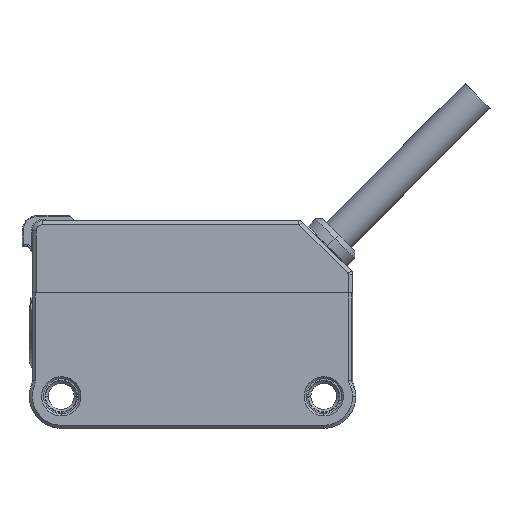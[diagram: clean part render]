
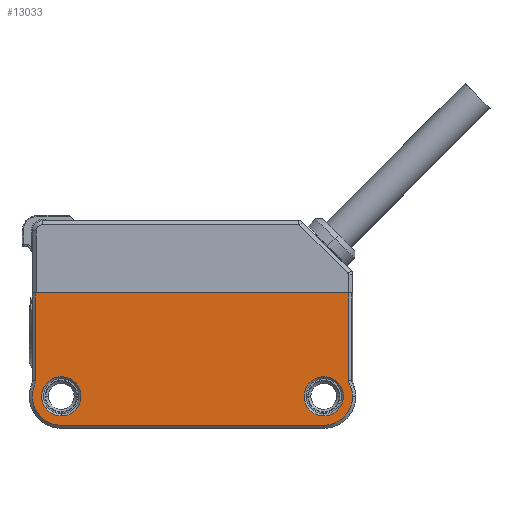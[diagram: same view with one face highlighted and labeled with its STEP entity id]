
A CAD part, front view. The second image highlights one B-rep face of the part: STEP entity #13033.
In plain terms, the highlighted planar face has unit normal (0, -1, 0).
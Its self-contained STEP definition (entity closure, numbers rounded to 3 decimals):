
#1=CARTESIAN_POINT('',(31.608,0.058,-28.705));
#2=CARTESIAN_POINT('',(31.608,0.058,-28.774));
#3=CARTESIAN_POINT('',(31.619,0.058,-28.911));
#4=CARTESIAN_POINT('',(31.668,0.058,-29.112));
#5=CARTESIAN_POINT('',(31.721,0.058,-29.238));
#6=CARTESIAN_POINT('',(31.752,0.058,-29.3));
#8=CARTESIAN_POINT('',(31.752,0.058,-29.3));
#9=CARTESIAN_POINT('',(31.803,0.058,-29.4));
#10=CARTESIAN_POINT('',(31.89,0.058,-29.603));
#11=CARTESIAN_POINT('',(31.973,0.058,-29.928));
#12=CARTESIAN_POINT('',(31.995,0.058,-30.148));
#13=CARTESIAN_POINT('',(31.998,0.058,-30.26));
#15=CARTESIAN_POINT('',(29.198,0.058,-30.256));
#16=DIRECTION('',(0.,1.,0.));
#17=DIRECTION('',(1.,0.,-0.001));
#18=AXIS2_PLACEMENT_3D('',#15,#16,#17);
#20=CARTESIAN_POINT('',(3.798,0.058,-30.256));
#21=DIRECTION('',(0.,1.,0.));
#22=DIRECTION('',(0.,0.,-1.));
#23=AXIS2_PLACEMENT_3D('',#20,#21,#22);
#25=CARTESIAN_POINT('',(-0.002,0.058,
-28.717));
#26=DIRECTION('',(0.,-1.,0.));
#27=DIRECTION('',(0.927,0.,-0.375));
#28=AXIS2_PLACEMENT_3D('',#25,#26,#27);
#30=CARTESIAN_POINT('',(3.798,0.058,-30.256));
#31=DIRECTION('',(0.,-1.,0.));
#32=DIRECTION('',(0.,0.,-1.));
#33=AXIS2_PLACEMENT_3D('',#30,#31,#32);
#35=CARTESIAN_POINT('',(3.798,0.058,-30.256));
#36=DIRECTION('',(0.,-1.,0.));
#37=DIRECTION('',(0.,0.,1.));
#38=AXIS2_PLACEMENT_3D('',#35,#36,#37);
#40=CARTESIAN_POINT('',(29.198,0.058,-30.256));
#41=DIRECTION('',(0.,-1.,0.));
#42=DIRECTION('',(0.,0.,-1.));
#43=AXIS2_PLACEMENT_3D('',#40,#41,#42);
#45=CARTESIAN_POINT('',(29.198,0.058,-30.256));
#46=DIRECTION('',(0.,-1.,0.));
#47=DIRECTION('',(0.,0.,1.));
#48=AXIS2_PLACEMENT_3D('',#45,#46,#47);
#54=DIRECTION('',(0.,0.,1.));
#55=VECTOR('',#54,8.449);
#56=CARTESIAN_POINT('',(31.608,0.058,-28.705));
#57=LINE('',#56,#55);
#74=DIRECTION('',(-1.,0.,0.));
#75=VECTOR('',#74,30.31);
#76=CARTESIAN_POINT('',(31.608,0.058,-20.256));
#77=LINE('',#76,#75);
#286=DIRECTION('',(0.,0.,-1.));
#287=VECTOR('',#286,8.461);
#288=CARTESIAN_POINT('',(1.298,0.058,-20.256));
#289=LINE('',#288,#287);
#317=DIRECTION('',(1.,0.,0.));
#318=VECTOR('',#317,25.4);
#319=CARTESIAN_POINT('',(3.798,0.058,-33.056));
#320=LINE('',#319,#318);
#10675=CARTESIAN_POINT('',(29.198,0.058,
-32.156));
#10676=CARTESIAN_POINT('',(29.198,0.058,
-28.356));
#10677=VERTEX_POINT('',#10675);
#10678=VERTEX_POINT('',#10676);
#10679=CARTESIAN_POINT('',(3.798,0.058,
-32.156));
#10680=CARTESIAN_POINT('',(3.798,0.058,
-28.356));
#10681=VERTEX_POINT('',#10679);
#10682=VERTEX_POINT('',#10680);
#10683=VERTEX_POINT('',#1);
#10684=VERTEX_POINT('',#6);
#10685=VERTEX_POINT('',#13);
#10686=CARTESIAN_POINT('',(29.198,0.058,
-33.056));
#10687=VERTEX_POINT('',#10686);
#10688=CARTESIAN_POINT('',(3.798,0.058,
-33.056));
#10689=CARTESIAN_POINT('',(1.203,0.058,
-29.205));
#10690=VERTEX_POINT('',#10688);
#10691=VERTEX_POINT('',#10689);
#10692=CARTESIAN_POINT('',(1.298,0.058,
-28.717));
#10693=VERTEX_POINT('',#10692);
#10813=CARTESIAN_POINT('',(31.608,0.058,
-20.256));
#10814=VERTEX_POINT('',#10813);
#10815=CARTESIAN_POINT('',(1.298,0.058,
-20.256));
#10816=VERTEX_POINT('',#10815);
#12996=CARTESIAN_POINT('',(16.498,0.058,
-26.656));
#12997=DIRECTION('',(0.,1.,0.));
#12998=DIRECTION('',(1.,0.,0.));
#12999=AXIS2_PLACEMENT_3D('',#12996,#12997,#12998);
#13000=PLANE('',#12999);
#13002=ORIENTED_EDGE('',*,*,#13001,.F.);
#13004=ORIENTED_EDGE('',*,*,#13003,.T.);
#13006=ORIENTED_EDGE('',*,*,#13005,.T.);
#13008=ORIENTED_EDGE('',*,*,#13007,.T.);
#13010=ORIENTED_EDGE('',*,*,#13009,.F.);
#13012=ORIENTED_EDGE('',*,*,#13011,.T.);
#13014=ORIENTED_EDGE('',*,*,#13013,.T.);
#13016=ORIENTED_EDGE('',*,*,#13015,.F.);
#13018=ORIENTED_EDGE('',*,*,#13017,.F.);
#13019=EDGE_LOOP('',(#13002,#13004,#13006,#13008,#13010,#13012,#13014,#13016,
#13018));
#13020=FACE_OUTER_BOUND('',#13019,.F.);
#13022=ORIENTED_EDGE('',*,*,#13021,.T.);
#13024=ORIENTED_EDGE('',*,*,#13023,.T.);
#13025=EDGE_LOOP('',(#13022,#13024));
#13026=FACE_BOUND('',#13025,.F.);
#13028=ORIENTED_EDGE('',*,*,#13027,.T.);
#13030=ORIENTED_EDGE('',*,*,#13029,.T.);
#13031=EDGE_LOOP('',(#13028,#13030));
#13032=FACE_BOUND('',#13031,.F.);
#13033=ADVANCED_FACE('',(#13020,#13026,#13032),#13000,.F.);
#7=B_SPLINE_CURVE_WITH_KNOTS('',3,(#1,#2,#3,#4,#5,#6),.UNSPECIFIED.,.F.,.F.,(4,
1,1,4),(0.,0.333,0.667,1.),.UNSPECIFIED.);
#14=B_SPLINE_CURVE_WITH_KNOTS('',3,(#8,#9,#10,#11,#12,#13),.UNSPECIFIED.,.F.,
.F.,(4,1,1,4),(0.,0.333,0.667,1.),.UNSPECIFIED.);
#19=CIRCLE('',#18,2.8);
#24=CIRCLE('',#23,2.8);
#29=CIRCLE('',#28,1.3);
#34=CIRCLE('',#33,1.9);
#39=CIRCLE('',#38,1.9);
#44=CIRCLE('',#43,1.9);
#49=CIRCLE('',#48,1.9);
#13001=EDGE_CURVE('',#10683,#10814,#57,.T.);
#13003=EDGE_CURVE('',#10683,#10684,#7,.T.);
#13005=EDGE_CURVE('',#10684,#10685,#14,.T.);
#13007=EDGE_CURVE('',#10685,#10687,#19,.T.);
#13009=EDGE_CURVE('',#10690,#10687,#320,.T.);
#13011=EDGE_CURVE('',#10690,#10691,#24,.T.);
#13013=EDGE_CURVE('',#10691,#10693,#29,.T.);
#13015=EDGE_CURVE('',#10816,#10693,#289,.T.);
#13017=EDGE_CURVE('',#10814,#10816,#77,.T.);
#13021=EDGE_CURVE('',#10681,#10682,#34,.T.);
#13023=EDGE_CURVE('',#10682,#10681,#39,.T.);
#13027=EDGE_CURVE('',#10677,#10678,#44,.T.);
#13029=EDGE_CURVE('',#10678,#10677,#49,.T.);
